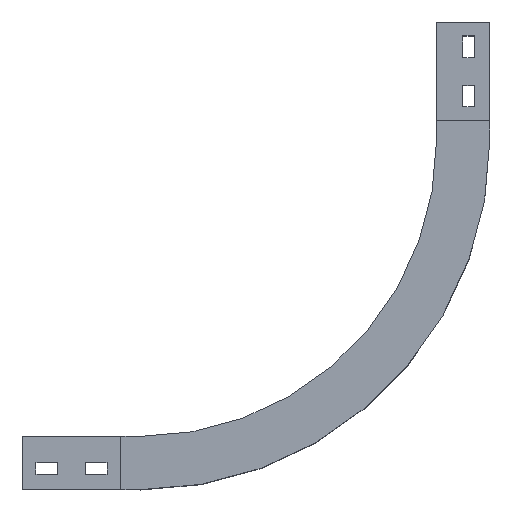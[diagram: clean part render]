
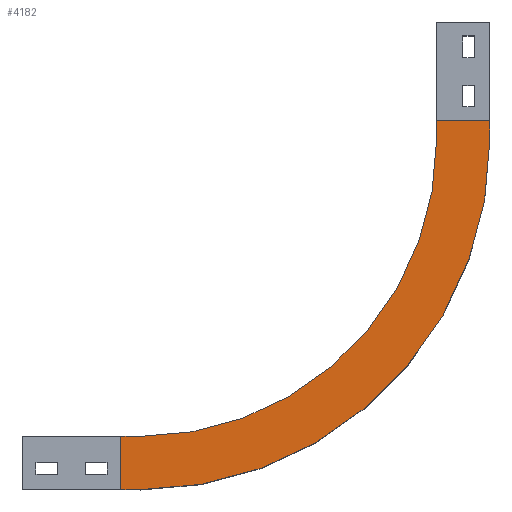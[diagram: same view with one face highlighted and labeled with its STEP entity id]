
A CAD part, top view. The second image highlights one B-rep face of the part: STEP entity #4182.
In plain terms, the highlighted planar face has unit normal (0, 0, 1).
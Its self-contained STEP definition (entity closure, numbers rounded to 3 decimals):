
#269=CIRCLE('',#4485,354.);
#270=CIRCLE('',#4486,300.);
#542=FACE_OUTER_BOUND('',#814,.T.);
#814=EDGE_LOOP('',(#3769,#3770,#3771,#3772,#3773,#3774,#3775,#3776));
#1229=LINE('',#8528,#1665);
#1233=LINE('',#8536,#1669);
#1234=LINE('',#8540,#1670);
#1235=LINE('',#8542,#1671);
#1236=LINE('',#8544,#1672);
#1237=LINE('',#8547,#1673);
#1665=VECTOR('',#5467,304.8);
#1669=VECTOR('',#5473,304.8);
#1670=VECTOR('',#5476,304.8);
#1671=VECTOR('',#5477,304.8);
#1672=VECTOR('',#5478,304.8);
#1673=VECTOR('',#5481,304.8);
#2065=VERTEX_POINT('',#8526);
#2066=VERTEX_POINT('',#8527);
#2069=VERTEX_POINT('',#8535);
#2070=VERTEX_POINT('',#8537);
#2071=VERTEX_POINT('',#8539);
#2072=VERTEX_POINT('',#8541);
#2073=VERTEX_POINT('',#8543);
#2074=VERTEX_POINT('',#8545);
#2637=EDGE_CURVE('',#2065,#2066,#1229,.T.);
#2641=EDGE_CURVE('',#2065,#2069,#1233,.T.);
#2642=EDGE_CURVE('',#2069,#2070,#269,.T.);
#2643=EDGE_CURVE('',#2070,#2071,#1234,.T.);
#2644=EDGE_CURVE('',#2071,#2072,#1235,.T.);
#2645=EDGE_CURVE('',#2072,#2073,#1236,.T.);
#2646=EDGE_CURVE('',#2073,#2074,#270,.T.);
#2647=EDGE_CURVE('',#2074,#2066,#1237,.T.);
#3769=ORIENTED_EDGE('',*,*,#2637,.F.);
#3770=ORIENTED_EDGE('',*,*,#2641,.T.);
#3771=ORIENTED_EDGE('',*,*,#2642,.T.);
#3772=ORIENTED_EDGE('',*,*,#2643,.T.);
#3773=ORIENTED_EDGE('',*,*,#2644,.T.);
#3774=ORIENTED_EDGE('',*,*,#2645,.T.);
#3775=ORIENTED_EDGE('',*,*,#2646,.T.);
#3776=ORIENTED_EDGE('',*,*,#2647,.T.);
#3978=PLANE('',#4484);
#4182=ADVANCED_FACE('',(#542),#3978,.T.);
#4484=AXIS2_PLACEMENT_3D('',#8534,#5471,#5472);
#4485=AXIS2_PLACEMENT_3D('',#8538,#5474,#5475);
#4486=AXIS2_PLACEMENT_3D('',#8546,#5479,#5480);
#5467=DIRECTION('',(0.,1.,0.));
#5471=DIRECTION('center_axis',(0.,0.,1.));
#5472=DIRECTION('ref_axis',(1.,0.,0.));
#5473=DIRECTION('',(1.,0.,0.));
#5474=DIRECTION('center_axis',(0.,0.,1.));
#5475=DIRECTION('ref_axis',(0.,-1.,0.));
#5476=DIRECTION('',(0.,1.,0.));
#5477=DIRECTION('',(-1.,0.,0.));
#5478=DIRECTION('',(0.,-1.,0.));
#5479=DIRECTION('center_axis',(0.,0.,-1.));
#5480=DIRECTION('ref_axis',(0.,-1.,0.));
#5481=DIRECTION('',(-1.,0.,0.));
#8526=CARTESIAN_POINT('',(-347.,-27.,105.5));
#8527=CARTESIAN_POINT('',(-347.,27.,105.5));
#8528=CARTESIAN_POINT('',(-347.,-27.,105.5));
#8534=CARTESIAN_POINT('Origin',(-347.,-27.,105.5));
#8535=CARTESIAN_POINT('',(-327.,-27.,105.5));
#8536=CARTESIAN_POINT('',(-347.,-27.,105.5));
#8537=CARTESIAN_POINT('',(27.,327.,105.5));
#8538=CARTESIAN_POINT('Origin',(-327.,327.,105.5));
#8539=CARTESIAN_POINT('',(27.,347.,105.5));
#8540=CARTESIAN_POINT('',(27.,327.,105.5));
#8541=CARTESIAN_POINT('',(-27.,347.,105.5));
#8542=CARTESIAN_POINT('',(-27.,347.,105.5));
#8543=CARTESIAN_POINT('',(-27.,327.,105.5));
#8544=CARTESIAN_POINT('',(-27.,327.,105.5));
#8545=CARTESIAN_POINT('',(-327.,27.,105.5));
#8546=CARTESIAN_POINT('Origin',(-327.,327.,105.5));
#8547=CARTESIAN_POINT('',(-347.,27.,105.5));
